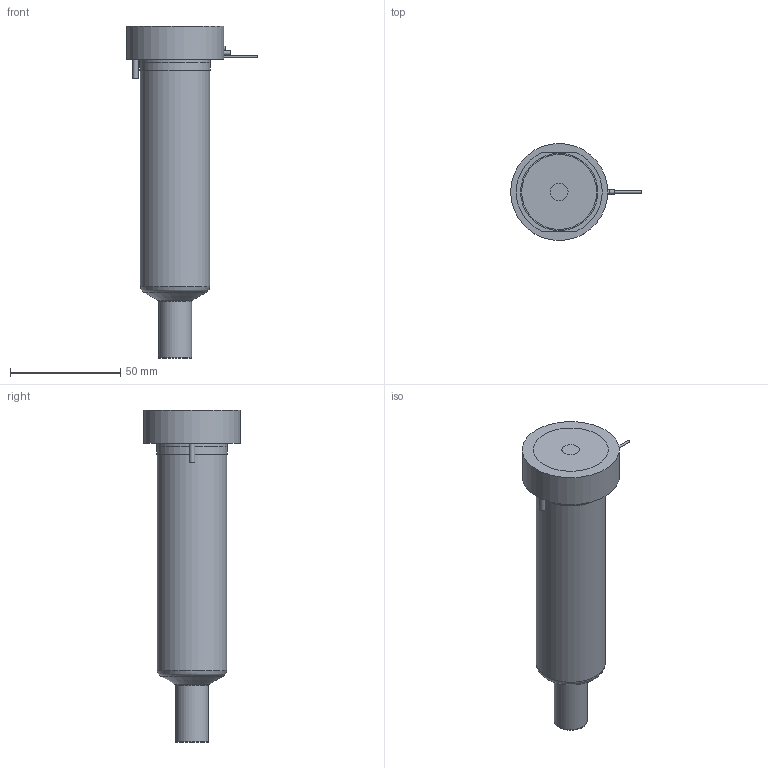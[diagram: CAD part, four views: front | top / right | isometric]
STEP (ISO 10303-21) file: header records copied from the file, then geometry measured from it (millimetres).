
FILE_DESCRIPTION(/* description */ (''),/* implementation_level */ '2;1');
FILE_NAME(/* name */ 'MXYCN19115N3F_200C_a',/* time_stamp */ '2016-02-26T10:35:29+13:00',/* author */ (''),/* organization */ (''),/* preprocessor_version */ 'ST-DEVELOPER v9',/* originating_system */ 'UGS - NX 4.0',/* authorisation */ '');
FILE_SCHEMA (('CONFIG_CONTROL_DESIGN'));
Length unit declared in the file: millimetre
Products named in the file (1): matt70754fre
Bounding box: 59.25 x 44 x 150.58 mm (x, y, z)
Volume: 185116.2 mm3; surface area: 32363.6 mm2
Topology: 2 solids, 2 shells, 68 faces, 144 edges, 94 vertices
Faces by surface type: plane 29, cylinder 25, torus 7, cone 5, bspline 1, sphere 1
Full cylindrical faces by diameter (mm): 1 x2, 2 x2, 2.5 x2, 7 x1, 8 x1, 14.61 x1, 14.995 x2, 18.3 x1, 25.4 x1, 31.5 x1, 32 x2, 44 x1
Entity records: 2005 total; most frequent: CARTESIAN_POINT 597, DIRECTION 290, ORIENTED_EDGE 212, AXIS2_PLACEMENT_3D 131, EDGE_LOOP 112, EDGE_CURVE 106, VERTEX_POINT 84, ADVANCED_FACE 68
